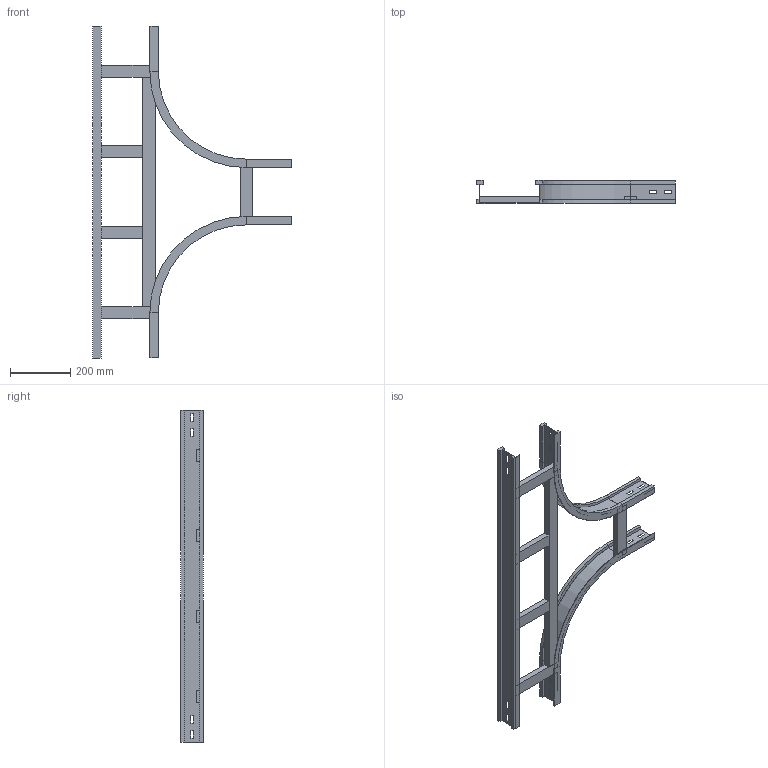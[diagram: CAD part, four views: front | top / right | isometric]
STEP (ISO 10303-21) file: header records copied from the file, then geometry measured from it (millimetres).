
FILE_DESCRIPTION (( 'STEP AP214' ), '1' );
FILE_NAME ('15S3C200.step', '2025-02-21T16:14:40', ( '' ), ( '' ), 'SwSTEP 2.0', 'SolidWorks 2023', '' );
FILE_SCHEMA (( 'AUTOMOTIVE_DESIGN' ));
Length unit declared in the file: millimetre
Products named in the file (6): LONGH.INTERNO 90°_H75_R300; 15S3C200; TRAVERSINO_200; LONGH.RETT_H75_R300+200; TRAVERSINO_LONG._R300+200; TRAVERSINO_INTERMEDIO_R300+200
Assembly tree (9 placements, depth 2):
  15S3C200
    LONGH.INTERNO 90°_H75_R300  x2
    LONGH.RETT_H75_R300+200
    TRAVERSINO_200  x3
    TRAVERSINO_LONG._R300+200
    TRAVERSINO_INTERMEDIO_R300+200  x2
Bounding box: 659 x 75 x 1100 mm (x, y, z)
Volume: 2646665.8 mm3; surface area: 863815.9 mm2
Topology: 9 solids, 9 shells, 174 faces, 420 edges, 264 vertices
Faces by surface type: plane 162, cylinder 12
Entity records: 3187 total; most frequent: CARTESIAN_POINT 526, ORIENTED_EDGE 504, DIRECTION 492, EDGE_CURVE 252, LINE 240, VECTOR 240, VERTEX_POINT 160, AXIS2_PLACEMENT_3D 126
